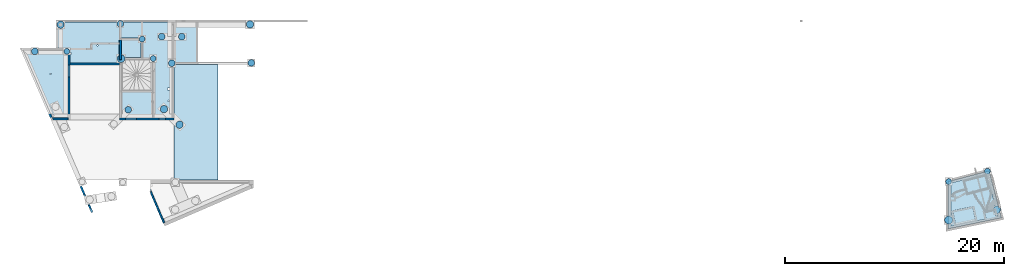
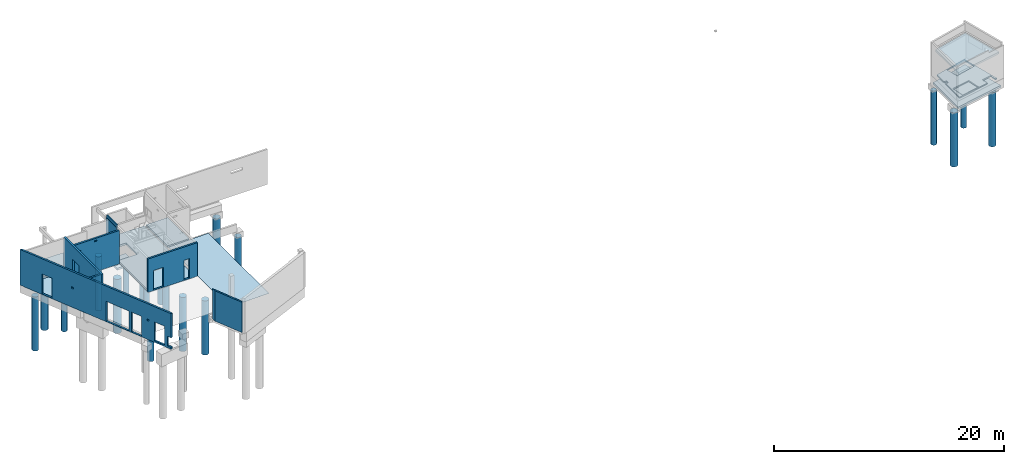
# One storey, part 4 of 29: 27 slabs, 7 walls, 19 openings.
"""IFC2X3 building model written with IfcOpenShell, lengths in centimetres."""

from ifc_helpers import new_model, entity, si_unit, converted_unit, derived_unit, direction, frame, frame_2d, origin, origin_2d_with_axis, place, context, subcontext, project, spatial, polyline, rectangle, circle, outline, extrude, clip, halfspace, bounded_halfspace, material, layer, layer_set, layer_usage, type_object, element, save


model = new_model("IFC2X3")

# Units and contexts
model_context = context("Model", 3, precision=0.001, world=origin(), true_north=direction((6.12303176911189e-17, 1.0)))
body_context = subcontext(model_context, "Body", "Model", "MODEL_VIEW")
ifc_project = project(units=[si_unit("LENGTHUNIT", "METRE", prefix="CENTI"), si_unit("AREAUNIT", "SQUARE_METRE"), si_unit("VOLUMEUNIT", "CUBIC_METRE"), converted_unit("PLANEANGLEUNIT", "DEGREE", entity("IfcRatioMeasure", 0.0174532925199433), si_unit("PLANEANGLEUNIT", "RADIAN"), dimensions=[0, 0, 0, 0, 0, 0, 0]), si_unit("MASSUNIT", "GRAM", prefix="KILO"), derived_unit("MASSDENSITYUNIT", [(si_unit("MASSUNIT", "GRAM", prefix="KILO"), 1), (si_unit("LENGTHUNIT", "METRE"), -3)]), si_unit("TIMEUNIT", "SECOND"), si_unit("FREQUENCYUNIT", "HERTZ"), si_unit("THERMODYNAMICTEMPERATUREUNIT", "DEGREE_CELSIUS"), derived_unit("THERMALTRANSMITTANCEUNIT", [(si_unit("MASSUNIT", "GRAM", prefix="KILO"), 1), (si_unit("THERMODYNAMICTEMPERATUREUNIT", "KELVIN"), -1), (si_unit("TIMEUNIT", "SECOND"), -3)]), derived_unit("VOLUMETRICFLOWRATEUNIT", [(si_unit("LENGTHUNIT", "METRE"), 3), (si_unit("TIMEUNIT", "SECOND"), -1)]), si_unit("ELECTRICCURRENTUNIT", "AMPERE"), si_unit("ELECTRICVOLTAGEUNIT", "VOLT"), si_unit("POWERUNIT", "WATT"), si_unit("FORCEUNIT", "NEWTON"), si_unit("ILLUMINANCEUNIT", "LUX"), si_unit("LUMINOUSFLUXUNIT", "LUMEN"), si_unit("LUMINOUSINTENSITYUNIT", "CANDELA"), derived_unit("USERDEFINED", [(si_unit("MASSUNIT", "GRAM", prefix="KILO"), -1), (si_unit("LENGTHUNIT", "METRE"), -2), (si_unit("TIMEUNIT", "SECOND"), 3), (si_unit("LUMINOUSFLUXUNIT", "LUMEN"), 1)]), derived_unit("LINEARVELOCITYUNIT", [(si_unit("LENGTHUNIT", "METRE"), 1), (si_unit("TIMEUNIT", "SECOND"), -1)]), si_unit("PRESSUREUNIT", "PASCAL"), derived_unit("USERDEFINED", [(si_unit("LENGTHUNIT", "METRE"), -2), (si_unit("MASSUNIT", "GRAM", prefix="KILO"), 1), (si_unit("TIMEUNIT", "SECOND"), -2)])], contexts=[model_context])

# Site, building, storey
site_placement = place(None, origin())
site = spatial("IfcSite", under=ifc_project, at=site_placement, Name="Default", CompositionType="ELEMENT")
building_placement = place(site_placement, origin())
building = spatial("IfcBuilding", under=site, at=building_placement, Name="CAGE 03", CompositionType="ELEMENT")
storey_placement = place(building_placement, frame((0.0, 0.0, -34.0)))
storey = spatial("IfcBuildingStorey", under=building, at=storey_placement, Name="+3.66", CompositionType="ELEMENT", Elevation=-34.0000000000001)

# Slabs
ifc_material_1 = material(Name="Béton, C25/30")
ifc_layer_1 = layer(ifc_material_1, 20.0)
ifc_layer_set_1 = layer_set([ifc_layer_1], Name="Sol:Dalle Béton - 20 cm")
ifc_layer_usage_1 = layer_usage(ifc_layer_set_1, "AXIS3", "POSITIVE", 0.0)
slab_1_placement = place(storey_placement, origin())
element("IfcSlab", 1, at=slab_1_placement, inside=storey, material=ifc_layer_usage_1, Name="Sol:Dalle Béton - 20 cm", ObjectType="Sol:Dalle Béton - 20 cm", PredefinedType="FLOOR", context=body_context, shape_type="SweptSolid", body=[
    extrude(outline(polyline([(-248.676254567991, -205.551945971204), (154.071389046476, -205.551945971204), (247.761282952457, 153.201286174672), (-153.156417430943, 257.902605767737), (-248.676254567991, -205.551945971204)])), frame((11440.4177661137, 3653.73485658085, 270.0), z_axis=(0.0, 0.0, -1.0), x_axis=(0.0, 1.0, 0.0)), (0.0, 0.0, 1.0), 20.0),
])
ifc_layer_usage_2 = layer_usage(ifc_layer_set_1, "AXIS3", "POSITIVE", 0.0)
slab_2_placement = place(storey_placement, origin())
element("IfcSlab", 2, at=slab_2_placement, inside=storey, material=ifc_layer_usage_2, Name="Sol:Dalle Béton - 20 cm", ObjectType="Sol:Dalle Béton - 20 cm", PredefinedType="FLOOR", context=body_context, shape_type="SweptSolid", body=[
    extrude(outline(polyline([(-265.974404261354, -215.675399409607), (166.744575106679, -215.675399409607), (264.722937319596, 159.499047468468), (-165.493108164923, 271.851751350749), (-265.974404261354, -215.675399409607)])), frame((11435.0412195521, 3653.03362543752, -81.0), z_axis=(0.0, 0.0, -1.0), x_axis=(0.0, 1.0, 0.0)), (0.0, 0.0, 1.0), 20.0),
])

# Slab, opening
ifc_layer_usage_3 = layer_usage(ifc_layer_set_1, "AXIS3", "POSITIVE", 0.0)
slab_3_placement = place(storey_placement, frame((2774.31409406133, 4399.66066607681, -25.0)))
slab_3 = element("IfcSlab", 3, at=slab_3_placement, inside=storey, material=ifc_layer_usage_3, Name="Sol:Dalle Béton - 20 cm", ObjectType="Sol:Dalle Béton - 20 cm", PredefinedType="FLOOR", context=body_context, shape_type="SweptSolid", body=[
    extrude(outline(polyline([(-206.025863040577, 309.749999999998), (-206.025863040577, -309.749999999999), (-62.0223320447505, -309.749999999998), (206.025863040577, 309.75), (-206.025863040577, 309.749999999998)])), frame((206.025863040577, 309.749999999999, 20.0), z_axis=(0.0, 0.0, -1.0), x_axis=(-1.0, 0.0, 0.0)), (0.0, 0.0, 1.0), 20.0),
])
opening_1_placement = place(slab_3_placement, origin())
element("IfcOpeningElement", 4, at=opening_1_placement, cuts=slab_3, ObjectType="Opening", context=body_context, shape_type="SweptSolid", body=[
    extrude(circle(Radius=5.5, at=origin_2d_with_axis()), frame((253.144128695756, 401.644630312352, 0.0)), (0.0, 0.0, 1.0), 20.0),
])

# Slab, openings
ifc_layer_usage_4 = layer_usage(ifc_layer_set_1, "AXIS3", "POSITIVE", 0.0)
slab_4_placement = place(storey_placement, frame((3077.36582014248, 4399.66066607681, -25.0)))
slab_4 = element("IfcSlab", 5, at=slab_4_placement, inside=storey, material=ifc_layer_usage_4, Name="Sol:Dalle Béton - 20 cm", ObjectType="Sol:Dalle Béton - 20 cm", PredefinedType="FLOOR", context=body_context, shape_type="SweptSolid", body=[
    extrude(outline(polyline([(-528.5, 438.0), (-528.499999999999, -438.0), (-66.5000000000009, -438.0), (-66.5000000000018, 95.0), (-261.500000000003, 95.0), (-261.500000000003, 291.0), (-48.5000000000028, 291.0), (-48.5000000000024, 62.0), (401.499999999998, 62.0), (401.499999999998, 199.499999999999), (528.499999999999, 199.499999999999), (528.499999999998, 438.0), (-528.5, 438.0)])), frame((528.499999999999, 438.0, 20.0), z_axis=(0.0, 0.0, -1.0), x_axis=(-1.0, 0.0, 0.0)), (0.0, 0.0, 1.0), 20.0),
])
opening_2_placement = place(slab_4_placement, origin())
element("IfcOpeningElement", 6, at=opening_2_placement, cuts=slab_4, ObjectType="Opening", context=body_context, shape_type="SweptSolid", body=[
    extrude(circle(Radius=5.5, at=origin_2d_with_axis()), frame((135.181759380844, 588.254387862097, 0.0)), (0.0, 0.0, 1.0), 20.0),
])
opening_3_placement = place(slab_4_placement, origin())
element("IfcOpeningElement", 7, at=opening_3_placement, cuts=slab_4, ObjectType="Opening", context=body_context, shape_type="SweptSolid", body=[
    extrude(circle(Radius=5.5, at=origin_2d_with_axis()), frame((375.550499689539, 660.23710368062, 0.0)), (0.0, 0.0, 1.0), 20.0),
])
opening_4_placement = place(slab_4_placement, origin())
element("IfcOpeningElement", 8, at=opening_4_placement, cuts=slab_4, ObjectType="Opening", context=body_context, shape_type="SweptSolid", body=[
    extrude(circle(Radius=7.0, at=origin_2d_with_axis()), frame((1028.0, 154.925596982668, 0.0)), (0.0, 0.0, 1.0), 20.0),
])
opening_5_placement = place(slab_4_placement, origin())
element("IfcOpeningElement", 9, at=opening_5_placement, cuts=slab_4, ObjectType="Opening", context=body_context, shape_type="SweptSolid", body=[
    extrude(circle(Radius=10.0, at=origin_2d_with_axis()), frame((1025.0, 264.270298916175, 0.0)), (0.0, 0.0, 1.0), 20.0),
])

# Slabs
ifc_material_2 = material(Name="B25")
slab_5_placement = place(storey_placement, origin())
element("IfcSlab", 10, at=slab_5_placement, inside=storey, material=ifc_material_2, Name="Pieux:Ø46/67", ObjectType="Pieux:Ø46/67", PredefinedType="BASESLAB", context=body_context, shape_type="SweptSolid", body=[
    extrude(circle(Radius=33.5, at=origin_2d_with_axis()), frame((3117.36582014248, 5251.16066607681, -725.0)), (0.0, 0.0, 1.0), 575.0),
])
slab_6_placement = place(storey_placement, origin())
element("IfcSlab", 11, at=slab_6_placement, inside=storey, material=ifc_material_2, Name="Pieux:Ø41/61", ObjectType="Pieux:Ø41/61", PredefinedType="BASESLAB", context=body_context, shape_type="SweptSolid", body=[
    extrude(circle(Radius=30.5, at=origin_2d_with_axis()), frame((3663.36582014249, 5258.66066607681, -715.0)), (0.0, 0.0, 1.0), 575.0),
])
slab_7_placement = place(storey_placement, origin())
element("IfcSlab", 12, at=slab_7_placement, inside=storey, material=ifc_material_2, Name="Pieux:Ø41/61", ObjectType="Pieux:Ø41/61", PredefinedType="BASESLAB", context=body_context, shape_type="SweptSolid", body=[
    extrude(circle(Radius=30.5, at=origin_2d_with_axis()), frame((4040.86582014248, 5141.66066607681, -775.0)), (0.0, 0.0, 1.0), 575.0),
])
slab_8_placement = place(storey_placement, origin())
element("IfcSlab", 13, at=slab_8_placement, inside=storey, material=ifc_material_2, Name="Pieux:Ø46/67", ObjectType="Pieux:Ø46/67", PredefinedType="BASESLAB", context=body_context, shape_type="SweptSolid", body=[
    extrude(circle(Radius=33.5, at=origin_2d_with_axis()), frame((4846.36582014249, 5253.66066607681, -720.0)), (0.0, 0.0, 1.0), 575.0),
])
slab_9_placement = place(storey_placement, origin())
element("IfcSlab", 14, at=slab_9_placement, inside=storey, material=ifc_material_2, Name="Pieux:Ø41/61", ObjectType="Pieux:Ø41/61", PredefinedType="BASESLAB", context=body_context, shape_type="SweptSolid", body=[
    extrude(circle(Radius=30.5, at=origin_2d_with_axis()), frame((4858.36582014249, 4901.66066607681, -710.0)), (0.0, 0.0, 1.0), 575.0),
])
slab_10_placement = place(storey_placement, origin())
element("IfcSlab", 15, at=slab_10_placement, inside=storey, material=ifc_material_2, Name="Pieux:Ø36/53", ObjectType="Pieux:Ø36/53", PredefinedType="BASESLAB", context=body_context, shape_type="SweptSolid", body=[
    extrude(circle(Radius=26.5, at=origin_2d_with_axis()), frame((3174.36582014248, 5007.16066607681, -615.0)), (0.0, 0.0, 1.0), 475.0),
])
slab_11_placement = place(storey_placement, origin())
element("IfcSlab", 16, at=slab_11_placement, inside=storey, material=ifc_material_2, Name="Pieux:Ø41/61", ObjectType="Pieux:Ø41/61", PredefinedType="BASESLAB", context=body_context, shape_type="SweptSolid", body=[
    extrude(circle(Radius=30.5, at=origin_2d_with_axis()), frame((2882.36582014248, 5007.16066607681, -715.0)), (0.0, 0.0, 1.0), 575.0),
])
slab_12_placement = place(storey_placement, origin())
element("IfcSlab", 17, at=slab_12_placement, inside=storey, material=ifc_material_2, Name="Pieux:Ø41/61", ObjectType="Pieux:Ø41/61", PredefinedType="BASESLAB", context=body_context, shape_type="SweptSolid", body=[
    extrude(circle(Radius=30.5, at=origin_2d_with_axis()), frame((3734.06609062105, 4473.86093655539, -802.0), z_axis=(0.0, 0.0, 1.0), x_axis=(0.0, -1.0, 0.0)), (0.0, 0.0, 1.0), 575.0),
])
slab_13_placement = place(storey_placement, origin())
element("IfcSlab", 18, at=slab_13_placement, inside=storey, material=ifc_material_2, Name="Pieux:Ø46/67", ObjectType="Pieux:Ø46/67", PredefinedType="BASESLAB", context=body_context, shape_type="SweptSolid", body=[
    extrude(circle(Radius=33.5, at=origin_2d_with_axis()), frame((4203.43005165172, 4338.09643456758, -812.0), z_axis=(0.0, 0.0, 1.0), x_axis=(0.0, 1.0, 0.0)), (0.0, 0.0, 1.0), 575.0),
])
slab_14_placement = place(storey_placement, origin())
element("IfcSlab", 19, at=slab_14_placement, inside=storey, material=ifc_material_2, Name="Pieux:Ø51/72", ObjectType="Pieux:Ø51/72", PredefinedType="BASESLAB", context=body_context, shape_type="SweptSolid", body=[
    extrude(circle(Radius=36.0, at=origin_2d_with_axis()), frame((3669.36582014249, 4941.66066607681, -760.0)), (0.0, 0.0, 1.0), 575.0),
])
slab_15_placement = place(storey_placement, origin())
element("IfcSlab", 20, at=slab_15_placement, inside=storey, material=ifc_material_2, Name="Pieux:Ø36/53", ObjectType="Pieux:Ø36/53", PredefinedType="BASESLAB", context=body_context, shape_type="SweptSolid", body=[
    extrude(circle(Radius=26.5, at=origin_2d_with_axis()), frame((3861.36582014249, 5119.66066607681, -650.0)), (0.0, 0.0, 1.0), 475.0),
])
slab_16_placement = place(storey_placement, origin())
element("IfcSlab", 21, at=slab_16_placement, inside=storey, material=ifc_material_2, Name="Pieux:Ø36/53", ObjectType="Pieux:Ø36/53", PredefinedType="BASESLAB", context=body_context, shape_type="SweptSolid", body=[
    extrude(circle(Radius=26.5, at=origin_2d_with_axis()), frame((3963.36582014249, 4941.66066607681, -750.0)), (0.0, 0.0, 1.0), 575.0),
])
slab_17_placement = place(storey_placement, origin())
element("IfcSlab", 22, at=slab_17_placement, inside=storey, material=ifc_material_2, Name="Pieux:Ø41/61", ObjectType="Pieux:Ø41/61", PredefinedType="BASESLAB", context=body_context, shape_type="SweptSolid", body=[
    extrude(circle(Radius=30.5, at=origin_2d_with_axis()), frame((4132.36582014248, 4899.16066607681, -725.0)), (0.0, 0.0, 1.0), 575.0),
])
slab_18_placement = place(storey_placement, origin())
element("IfcSlab", 23, at=slab_18_placement, inside=storey, material=ifc_material_2, Name="Pieux:Ø36/53", ObjectType="Pieux:Ø36/53", PredefinedType="BASESLAB", context=body_context, shape_type="SweptSolid", body=[
    extrude(circle(Radius=26.5, at=origin_2d_with_axis()), frame((11223.8658201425, 3818.88631753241, -731.0)), (0.0, 0.0, 1.0), 575.0),
])
slab_19_placement = place(storey_placement, origin())
element("IfcSlab", 24, at=slab_19_placement, inside=storey, material=ifc_material_2, Name="Pieux:Ø46/67", ObjectType="Pieux:Ø46/67", PredefinedType="BASESLAB", context=body_context, shape_type="SweptSolid", body=[
    extrude(circle(Radius=33.5, at=origin_2d_with_axis()), frame((11664.8215186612, 3561.57192440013, -741.0)), (0.0, 0.0, 1.0), 575.0),
])
slab_20_placement = place(storey_placement, origin())
element("IfcSlab", 25, at=slab_20_placement, inside=storey, material=ifc_material_2, Name="Pieux:Ø36/53", ObjectType="Pieux:Ø36/53", PredefinedType="BASESLAB", context=body_context, shape_type="SweptSolid", body=[
    extrude(circle(Radius=26.5, at=origin_2d_with_axis()), frame((11578.3445969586, 3912.49345804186, -731.0)), (0.0, 0.0, 1.0), 575.0),
])
slab_21_placement = place(storey_placement, origin())
element("IfcSlab", 26, at=slab_21_placement, inside=storey, material=ifc_material_2, Name="Pieux:Ø51/72", ObjectType="Pieux:Ø51/72", PredefinedType="BASESLAB", context=body_context, shape_type="SweptSolid", body=[
    extrude(circle(Radius=36.0, at=origin_2d_with_axis()), frame((11223.8658201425, 3467.24430663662, -741.0)), (0.0, 0.0, 1.0), 575.0),
])
ifc_layer_usage_5 = layer_usage(ifc_layer_set_1, "AXIS3", "POSITIVE", 0.0)
slab_22_placement = place(storey_placement, origin())
element("IfcSlab", 27, at=slab_22_placement, inside=storey, material=ifc_layer_usage_5, Name="Sol:Dalle Béton - 20 cm", ObjectType="Sol:Dalle Béton - 20 cm", PredefinedType="FLOOR", context=body_context, shape_type="SweptSolid", body=[
    extrude(rectangle(XDim=160.000000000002, YDim=180.000000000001, at=origin_2d_with_axis()), frame((3762.36582014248, 5030.66066607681, -100.0), z_axis=(0.0, 0.0, -1.0), x_axis=(0.0, 1.0, 0.0)), (0.0, 0.0, 1.0), 20.0),
])
ifc_material_3 = material(Name="Site - Asphalte")
ifc_layer_2 = layer(ifc_material_3, 0.1)
ifc_layer_set_2 = layer_set([ifc_layer_2], Name="Sol:Enrobé")
ifc_layer_usage_6 = layer_usage(ifc_layer_set_2, "AXIS3", "POSITIVE", 0.0)
slab_23_placement = place(storey_placement, origin())
element("IfcSlab", 28, at=slab_23_placement, inside=storey, material=ifc_layer_usage_6, Name="Sol:Enrobé", ObjectType="Sol:Enrobé", PredefinedType="FLOOR", context=body_context, shape_type="Clipping", body=[
    clip(clip(extrude(rectangle(XDim=400.0799920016, YDim=1055.0, at=frame_2d((-2.27373675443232e-13, 4.2632564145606e-13), x_axis=(0.0, 1.0))), frame((4352.36582014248, 4359.16066607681, 2.0), z_axis=(0.0199960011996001, 0.0, -0.999800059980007), x_axis=(0.0, 1.0, 0.0)), (0.0, -0.0199960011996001, 0.999800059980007), 0.100040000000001), halfspace(frame((4152.36582014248, 4359.16066607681, -2.0), z_axis=(-0.0199960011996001, 0.0, 0.999800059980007), x_axis=(-0.999800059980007, 0.0, -0.0199960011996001)), False)), halfspace(frame((4152.36582014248, 4359.16066607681, -2.1000199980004), z_axis=(0.0199960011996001, 0.0, -0.999800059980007), x_axis=(0.999800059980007, 0.0, 0.0199960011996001)), False)),
])
slab_24_placement = place(storey_placement, origin())
element("IfcSlab", 29, at=slab_24_placement, inside=storey, material=ifc_material_2, Name="Pieux:Ø46/67", ObjectType="Pieux:Ø46/67", PredefinedType="BASESLAB", context=body_context, shape_type="SweptSolid", body=[
    extrude(circle(Radius=33.5, at=origin_2d_with_axis()), frame((4061.30158863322, 4480.22489758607, -812.0), z_axis=(0.0, 0.0, 1.0), x_axis=(0.0, 1.0, 0.0)), (0.0, 0.0, 1.0), 575.0),
])
ifc_layer_usage_7 = layer_usage(ifc_layer_set_1, "AXIS3", "POSITIVE", 0.0)
slab_25_placement = place(storey_placement, origin())
element("IfcSlab", 30, at=slab_25_placement, inside=storey, material=ifc_layer_usage_7, Name="Sol:Dalle Béton - 20 cm", ObjectType="Sol:Dalle Béton - 20 cm", PredefinedType="FLOOR", context=body_context, shape_type="SweptSolid", body=[
    extrude(rectangle(XDim=371.000000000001, YDim=218.000000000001, at=origin_2d_with_axis()), frame((4261.36582014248, 5090.16066607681, 0.0), z_axis=(0.0, 0.0, -1.0), x_axis=(0.0, 1.0, 0.0)), (0.0, 0.0, 1.0), 20.0),
])

# Slab, openings
ifc_layer_3 = layer(ifc_material_1, 12.0)
ifc_layer_set_3 = layer_set([ifc_layer_3], Name="Sol:Dalle Béton - 12 cm")
ifc_layer_usage_8 = layer_usage(ifc_layer_set_3, "AXIS3", "POSITIVE", 0.0)
slab_26_placement = place(storey_placement, frame((11247.3658201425, 3412.22948544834, -12.0)))
slab_26 = element("IfcSlab", 31, at=slab_26_placement, inside=storey, material=ifc_layer_usage_8, Name="Sol:Dalle Béton - 12 cm", ObjectType="Sol:Dalle Béton - 12 cm", PredefinedType="FLOOR", context=body_context, shape_type="SweptSolid", body=[
    extrude(outline(polyline([(-159.819492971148, 250.076213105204), (-261.688874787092, -139.997555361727), (-243.160434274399, -143.816341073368), (-234.480403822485, -101.701532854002), (-237.418646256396, -101.0959493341), (-233.381422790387, -81.5076664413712), (-138.378250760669, -101.088200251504), (-142.415474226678, -120.676483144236), (-145.353716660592, -120.070899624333), (-154.033747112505, -162.185707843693), (165.569827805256, -228.057283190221), (165.569827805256, 12.1830057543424), (136.569827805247, 12.1830057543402), (136.569827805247, 42.1830057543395), (165.569827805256, 42.1830057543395), (165.569827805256, 165.099442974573), (-159.819492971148, 250.076213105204)])), frame((165.569827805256, 228.057283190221, 12.0), z_axis=(0.0, 0.0, -1.0), x_axis=(-1.0, 0.0, 0.0)), (0.0, 0.0, 1.0), 12.0),
])
opening_6_placement = place(slab_26_placement, frame((232.440349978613, 378.927958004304, 12.0)))
element("IfcOpeningElement", 32, at=opening_6_placement, cuts=slab_26, Name="Sol:Dalle Béton - 12 cm:2", ObjectType="Opening", context=body_context, shape_type="SweptSolid", body=[
    extrude(rectangle(XDim=212.000000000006, YDim=127.000000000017, at=origin_2d_with_axis()), frame((0.0, 0.0, 0.0), z_axis=(0.0, 0.0, -1.0), x_axis=(0.967549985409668, 0.25267968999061, 0.0)), (0.0, 0.0, 1.0), 12.0),
])
opening_7_placement = place(slab_26_placement, frame((118.407996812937, 95.8756596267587, 12.0)))
element("IfcOpeningElement", 33, at=opening_7_placement, cuts=slab_26, Name="Sol:Dalle Béton - 12 cm:3", ObjectType="Opening", context=body_context, shape_type="SweptSolid", body=[
    extrude(rectangle(XDim=130.000000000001, YDim=184.999999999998, at=origin_2d_with_axis()), frame((0.0, 0.0, 0.0), z_axis=(0.0, 0.0, -1.0), x_axis=(-0.201861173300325, 0.979414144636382, 0.0)), (0.0, 0.0, 1.0), 12.0),
])

# Slab
slab_27_placement = place(storey_placement, origin())
element("IfcSlab", 34, at=slab_27_placement, inside=storey, material=ifc_material_2, Name="Pieux:Ø41/61", ObjectType="Pieux:Ø41/61", PredefinedType="BASESLAB", context=body_context, shape_type="SweptSolid", body=[
    extrude(circle(Radius=30.5, at=origin_2d_with_axis()), frame((4223.86582014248, 5141.66066607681, -775.0)), (0.0, 0.0, 1.0), 575.0),
])

# Wall, openings
ifc_layer_4 = layer(ifc_material_1, 18.0)
ifc_layer_set_4 = layer_set([ifc_layer_4], Name="Mur de base:Voile BA 18")
ifc_layer_usage_9 = layer_usage(ifc_layer_set_4, "AXIS2", "NEGATIVE", 9.0)
wall_type_1 = type_object("IfcWallType", Name="Mur de base:Voile BA 18", PredefinedType="STANDARD", material=ifc_layer_set_4)
wall_1_placement = place(storey_placement, frame((3405.52575744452, 3537.67089428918, -5.0), z_axis=(0.0, 0.0, 1.0), x_axis=(-0.397106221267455, 0.917772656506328, 0.0)))
wall_1 = element("IfcWallStandardCase", 35, at=wall_1_placement, inside=storey, type_object=wall_type_1, material=ifc_layer_usage_9, Name="Mur de base:Voile BA 18", ObjectType="Mur de base:Voile BA 18", context=body_context, shape_type="Clipping", body=[
    clip(extrude(outline(polyline([(0.0, 9.0), (0.0, -9.0), (76.0, -9.0), (300.091546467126, -9.0), (320.674149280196, -9.0), (915.712415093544, -9.0), (935.32511533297, -9.0), (940.406941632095, -9.0), (944.8108932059, -9.0), (975.640110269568, -9.0), (1600.52253178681, -9.0), (1610.32888190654, -9.0), (1629.94158214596, -9.0), (1637.72990742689, 9.0), (983.428435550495, 9.0), (944.810893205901, 9.0), (320.674149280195, 9.0), (76.0, 9.0), (0.0, 9.0)])), origin(), (0.0, 0.0, 1.0), 379.0), bounded_halfspace(frame((40.0, -9.0, 122.0), z_axis=(1.0, 0.0, 0.0), x_axis=(0.0, -1.0, 0.0)), True, frame((40.0, -9.0, 122.0), z_axis=(1.0, 0.0, 0.0), x_axis=(0.0, -1.0, 0.0)), polyline([(0.0, 0.0), (0.0, 100.0), (-18.0, 100.0), (-18.0, 0.0), (0.0, 0.0)]))),
])
opening_8_placement = place(storey_placement, frame((3405.52575744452, 3537.67089428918, -5.0), z_axis=(0.0, 0.0, 1.0), x_axis=(-0.397106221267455, 0.917772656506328, 0.0)))
element("IfcOpeningElement", 36, at=opening_8_placement, cuts=wall_1, Name="Mur de base:Voile BA 18:1", ObjectType="Opening", context=body_context, shape_type="SweptSolid", body=[
    extrude(rectangle(XDim=18.0000000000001, YDim=22.0000000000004, at=frame_2d((-9.40580946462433e-13, -5.36459765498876e-13), x_axis=(1.0, 0.0))), frame((1069.5, 0.0, 199.0), z_axis=(0.0, 0.0, 1.0), x_axis=(0.0, 1.0, 0.0)), (0.0, 0.0, 1.0), 18.0),
])
opening_9_placement = place(storey_placement, frame((3405.52575744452, 3537.67089428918, -5.0), z_axis=(0.0, 0.0, 1.0), x_axis=(-0.397106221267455, 0.917772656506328, 0.0)))
element("IfcOpeningElement", 37, at=opening_9_placement, cuts=wall_1, Name="Mur de base:Voile BA 18:2", ObjectType="Opening", context=body_context, shape_type="SweptSolid", body=[
    extrude(rectangle(XDim=18.0000000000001, YDim=22.0, at=origin_2d_with_axis()), frame((249.0, 0.0, 199.0), z_axis=(0.0, 0.0, 1.0), x_axis=(0.0, 1.0, 0.0)), (0.0, 0.0, 1.0), 18.0),
])
opening_10_placement = place(wall_1_placement, origin())
element("IfcOpeningElement", 38, at=opening_10_placement, cuts=wall_1, Name="Mur de base:Voile BA 18", ObjectType="Opening", context=body_context, shape_type="SweptSolid", body=[
    extrude(rectangle(XDim=226.0, YDim=18.0000000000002, at=frame_2d((-4.33431068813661e-13, -5.6843418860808e-14), x_axis=(0.0, 1.0))), frame((867.696379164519, -142.636296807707, 492.0), z_axis=(0.397106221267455, 0.917772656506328, 0.0), x_axis=(0.917772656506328, -0.397106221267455, 0.0)), (0.0, 0.0, 1.0), 91.0),
])
opening_11_placement = place(wall_1_placement, frame((-1894.42214952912, 4530.32954212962, 5.0), z_axis=(0.0, 0.0, 1.0), x_axis=(-0.397106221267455, -0.917772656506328, 0.0)))
element("IfcOpeningElement", 39, at=opening_11_placement, cuts=wall_1, Name="Mur de base:Voile BA 18", ObjectType="Opening", context=body_context, shape_type="SweptSolid", body=[
    extrude(rectangle(XDim=212.0, YDim=109.999999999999, at=frame_2d((-8.5265128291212e-14, 0.0), x_axis=(0.0, 1.0))), frame((3387.82241719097, 3939.69844526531, 106.0), z_axis=(-0.917772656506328, -0.397106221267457, 0.0), x_axis=(0.397106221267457, -0.917772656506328, 0.0)), (0.0, 0.0, 1.0), 304.8),
])
opening_12_placement = place(wall_1_placement, frame((-1894.42214952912, 4530.32954212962, 5.0), z_axis=(0.0, 0.0, 1.0), x_axis=(-0.397106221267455, -0.917772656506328, 0.0)))
element("IfcOpeningElement", 40, at=opening_12_placement, cuts=wall_1, Name="Mur de base:Voile BA 18", ObjectType="Opening", context=body_context, shape_type="SweptSolid", body=[
    extrude(rectangle(XDim=212.0, YDim=249.999999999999, at=frame_2d((7.8159700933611e-14, 0.0), x_axis=(0.0, 1.0))), frame((3307.20985427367, 4126.00629453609, 106.0), z_axis=(-0.917772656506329, -0.397106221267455, 0.0), x_axis=(0.397106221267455, -0.917772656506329, 0.0)), (0.0, 0.0, 1.0), 304.8),
])
opening_13_placement = place(wall_1_placement, frame((-1894.42214952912, 4530.32954212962, 0.0), z_axis=(0.0, 0.0, 1.0), x_axis=(-0.397106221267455, -0.917772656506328, 0.0)))
element("IfcOpeningElement", 41, at=opening_13_placement, cuts=wall_1, Name="Mur de base:Voile BA 18", ObjectType="Opening", context=body_context, shape_type="SweptSolid", body=[
    extrude(rectangle(XDim=212.0, YDim=110.0, at=frame_2d((-4.83169060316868e-13, 7.105427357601e-15), x_axis=(0.0, 1.0))), frame((3002.82793567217, 4829.47903574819, 111.0), z_axis=(-0.917772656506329, -0.397106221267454, 0.0), x_axis=(0.397106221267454, -0.917772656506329, 0.0)), (0.0, 0.0, 1.0), 304.8),
])
opening_14_placement = place(wall_1_placement, frame((-1894.42214952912, 4530.32954212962, 16.0), z_axis=(0.0, 0.0, 1.0), x_axis=(-0.397106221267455, -0.917772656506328, 0.0)))
element("IfcOpeningElement", 42, at=opening_14_placement, cuts=wall_1, Name="Mur de base:Voile BA 18", ObjectType="Opening", context=body_context, shape_type="SweptSolid", body=[
    extrude(rectangle(XDim=201.0, YDim=110.0, at=frame_2d((-8.88178419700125e-14, 0.0), x_axis=(0.0, 1.0))), frame((3487.4960787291, 3709.33750848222, 100.5), z_axis=(-0.917772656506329, -0.397106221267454, 0.0), x_axis=(0.397106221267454, -0.917772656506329, 0.0)), (0.0, 0.0, 1.0), 304.8),
])

ifc_layer_usage_10 = layer_usage(ifc_layer_set_4, "AXIS2", "NEGATIVE", 9.0)
wall_2_placement = place(storey_placement, frame((4152.36582014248, 4390.66066607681, -5.0), z_axis=(0.0, 0.0, 1.0), x_axis=(-1.0, 0.0, 0.0)))
wall_2 = element("IfcWallStandardCase", 43, at=wall_2_placement, inside=storey, type_object=wall_type_1, material=ifc_layer_usage_10, Name="Mur de base:Voile BA 18", ObjectType="Mur de base:Voile BA 18", context=body_context, shape_type="SweptSolid", body=[
    extrude(rectangle(XDim=497.999999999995, YDim=17.9999999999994, at=frame_2d((248.999999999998, -1.77635683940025e-14), x_axis=(-1.0, 0.0))), origin(), (0.0, 0.0, 1.0), 356.0),
])
opening_15_placement = place(wall_2_placement, frame((4152.36582014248, 4390.66066607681, 0.0), z_axis=(0.0, 0.0, 1.0), x_axis=(-1.0, 0.0, 0.0)))
element("IfcOpeningElement", 44, at=opening_15_placement, cuts=wall_2, Name="Mur de base:Voile BA 18", ObjectType="Opening", context=body_context, shape_type="SweptSolid", body=[
    extrude(rectangle(XDim=210.0, YDim=99.9999999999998, at=frame_2d((0.0, 7.105427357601e-15), x_axis=(0.0, 1.0))), frame((3760.86582014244, 4534.06066607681, 110.0), z_axis=(0.0, -1.0, 0.0), x_axis=(1.0, 0.0, 0.0)), (0.0, 0.0, 1.0), 304.8),
])
opening_16_placement = place(wall_2_placement, frame((4152.36582014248, 4390.66066607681, 0.0), z_axis=(0.0, 0.0, 1.0), x_axis=(-1.0, 0.0, 0.0)))
element("IfcOpeningElement", 45, at=opening_16_placement, cuts=wall_2, Name="Mur de base:Voile BA 18", ObjectType="Opening", context=body_context, shape_type="SweptSolid", body=[
    extrude(rectangle(XDim=210.0, YDim=55.9999999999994, at=frame_2d((0.0, 7.105427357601e-15), x_axis=(0.0, 1.0))), frame((4045.86582014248, 4534.06066607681, 110.0), z_axis=(0.0, -1.0, 0.0), x_axis=(1.0, 0.0, 0.0)), (0.0, 0.0, 1.0), 304.8),
])

# Wall
ifc_layer_usage_11 = layer_usage(ifc_layer_set_4, "AXIS2", "POSITIVE", -9.0)
wall_3_placement = place(storey_placement, frame((3663.36582014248, 5110.66066607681, -5.0), z_axis=(0.0, 0.0, 1.0), x_axis=(0.0, -1.0, 0.0)))
element("IfcWallStandardCase", 46, at=wall_3_placement, inside=storey, type_object=wall_type_1, material=ifc_layer_usage_11, Name="Mur de base:Voile BA 18", ObjectType="Mur de base:Voile BA 18", context=body_context, shape_type="Clipping", body=[
    clip(clip(extrude(rectangle(XDim=178.0, YDim=18.0000000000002, at=frame_2d((89.0000000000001, -2.93098878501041e-14), x_axis=(-1.0, 0.0))), origin(), (0.0, 0.0, 1.0), 379.0), bounded_halfspace(frame((178.0, -3.50000000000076, 356.0), z_axis=(0.0, 0.0, -1.0), x_axis=(1.0, 0.0, 0.0)), True, frame((178.0, -3.50000000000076, 356.0), z_axis=(0.0, 0.0, -1.0), x_axis=(1.0, 0.0, 0.0)), polyline([(0.0, 0.0), (0.0, 5.49999999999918), (-178.0, 5.49999999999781), (-178.0, 0.0), (0.0, 0.0)]))), bounded_halfspace(frame((0.0, -3.50000000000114, 356.0), z_axis=(0.0, 1.0, 0.0), x_axis=(0.0, 0.0, 1.0)), True, frame((0.0, -3.50000000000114, 356.0), z_axis=(0.0, 1.0, 0.0), x_axis=(0.0, 0.0, 1.0)), polyline([(0.0, 0.0), (23.0, 0.0), (23.0, 178.0), (0.0, 178.0), (0.0, 0.0)]))),
])

# Wall, openings
ifc_layer_usage_12 = layer_usage(ifc_layer_set_4, "AXIS2", "POSITIVE", -9.0)
wall_4_placement = place(storey_placement, frame((3204.36582014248, 4890.66066607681, -5.0)))
wall_4 = element("IfcWallStandardCase", 47, at=wall_4_placement, inside=storey, type_object=wall_type_1, material=ifc_layer_usage_12, Name="Mur de base:Voile BA 18", ObjectType="Mur de base:Voile BA 18", context=body_context, shape_type="SweptSolid", body=[
    extrude(rectangle(XDim=18.0000000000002, YDim=450.0, at=frame_2d((-4.33431068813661e-13, 0.0), x_axis=(1.0, 0.0))), frame((225.0, 0.0, 0.0), z_axis=(0.0, 0.0, 1.0), x_axis=(0.0, 1.0, 0.0)), (0.0, 0.0, 1.0), 356.0),
])
opening_17_placement = place(storey_placement, frame((3204.36582014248, 4890.66066607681, -5.0)))
element("IfcOpeningElement", 48, at=opening_17_placement, cuts=wall_4, Name="Mur de base:Voile BA 18:1", ObjectType="Opening", context=body_context, shape_type="SweptSolid", body=[
    extrude(rectangle(XDim=12.0, YDim=22.0000000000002, at=frame_2d((0.0, 0.0), x_axis=(0.0, 1.0))), frame((214.453491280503, -9.0, 328.076580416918), z_axis=(0.0, 1.0, 0.0), x_axis=(1.0, 0.0, 0.0)), (0.0, 0.0, 1.0), 18.0000000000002),
])
opening_18_placement = place(storey_placement, frame((3204.36582014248, 4890.66066607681, -5.0)))
element("IfcOpeningElement", 49, at=opening_18_placement, cuts=wall_4, Name="Mur de base:Voile BA 18:2", ObjectType="Opening", context=body_context, shape_type="SweptSolid", body=[
    extrude(circle(Radius=6.24999999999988, at=frame_2d((-4.92492512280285e-27, 1.89501747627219e-13), x_axis=(1.0, 0.0))), frame((58.6648645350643, -9.0, 276.743527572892), z_axis=(0.0, 1.0, 0.0), x_axis=(1.0, 0.0, 0.0)), (0.0, 0.0, 1.0), 18.0000000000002),
])

# Wall, opening
ifc_layer_usage_13 = layer_usage(ifc_layer_set_4, "AXIS2", "NEGATIVE", 9.0)
wall_5_placement = place(storey_placement, frame((3195.36582014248, 5037.16066607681, -5.0), z_axis=(0.0, 0.0, 1.0), x_axis=(0.0, -1.0, 0.0)))
wall_5 = element("IfcWallStandardCase", 50, at=wall_5_placement, inside=storey, type_object=wall_type_1, material=ifc_layer_usage_13, Name="Mur de base:Voile BA 18", ObjectType="Mur de base:Voile BA 18", context=body_context, shape_type="SweptSolid", body=[
    extrude(rectangle(XDim=655.499999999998, YDim=18.0000000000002, at=frame_2d((327.749999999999, 8.70414851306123e-14), x_axis=(-1.0, 0.0))), origin(), (0.0, 0.0, 1.0), 356.0),
])
opening_19_placement = place(wall_5_placement, frame((5037.16066607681, -3195.36582014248, 0.0), z_axis=(0.0, 0.0, 1.0), x_axis=(0.0, 1.0, 0.0)))
element("IfcOpeningElement", 51, at=opening_19_placement, cuts=wall_5, Name="Mur de base:Voile BA 18", ObjectType="Opening", context=body_context, shape_type="SweptSolid", body=[
    extrude(rectangle(XDim=210.0, YDim=110.0, at=frame_2d((4.33431068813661e-13, 7.105427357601e-15), x_axis=(0.0, 1.0))), frame((3051.96582014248, 4826.66066607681, 110.0), z_axis=(1.0, 0.0, 0.0), x_axis=(0.0, 1.0, 0.0)), (0.0, 0.0, 1.0), 304.8),
])

# Walls
ifc_layer_usage_14 = layer_usage(ifc_layer_set_4, "AXIS2", "NEGATIVE", 9.0)
wall_6_placement = place(storey_placement, frame((3186.36582014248, 4390.66066607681, -5.0), z_axis=(0.0, 0.0, 1.0), x_axis=(-1.0, 0.0, 0.0)))
element("IfcWallStandardCase", 52, at=wall_6_placement, inside=storey, type_object=wall_type_1, material=ifc_layer_usage_14, Name="Mur de base:Voile BA 18", ObjectType="Mur de base:Voile BA 18", context=body_context, shape_type="SweptSolid", body=[
    extrude(outline(polyline([(144.003530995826, -9.0), (136.215205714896, 9.0), (0.0, 9.0), (0.0, -9.0), (144.003530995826, -9.0)])), origin(), (0.0, 0.0, 1.0), 356.0),
])
ifc_material_4 = material(Name="Bloc béton")
ifc_layer_5 = layer(ifc_material_4, 15.0)
ifc_layer_set_5 = layer_set([ifc_layer_5], Name="Mur de base:Int. Parpaing 150 mm")
ifc_layer_usage_15 = layer_usage(ifc_layer_set_5, "AXIS2", "NEGATIVE", 7.5)
wall_type_2 = type_object("IfcWallType", Name="Mur de base:Int. Parpaing 150 mm", PredefinedType="STANDARD", material=ifc_layer_set_5)
wall_7_placement = place(storey_placement, frame((4062.26027337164, 3442.65102484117, 0.0), z_axis=(0.0, 0.0, 1.0), x_axis=(-0.397106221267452, 0.91777265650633, 0.0)))
element("IfcWallStandardCase", 53, at=wall_7_placement, inside=storey, type_object=wall_type_2, material=ifc_layer_usage_15, Name="Mur de base:Int. Parpaing 150 mm", ObjectType="Mur de base:Int. Parpaing 150 mm", context=body_context, shape_type="SweptSolid", body=[
    extrude(outline(polyline([(329.066545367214, -7.49999999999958), (294.399272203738, 7.49999999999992), (0.0, 7.49999999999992), (0.0, -7.49999999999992), (329.066545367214, -7.49999999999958)])), origin(), (0.0, 0.0, 1.0), 322.0),
])

save(model, "model.ifc")
